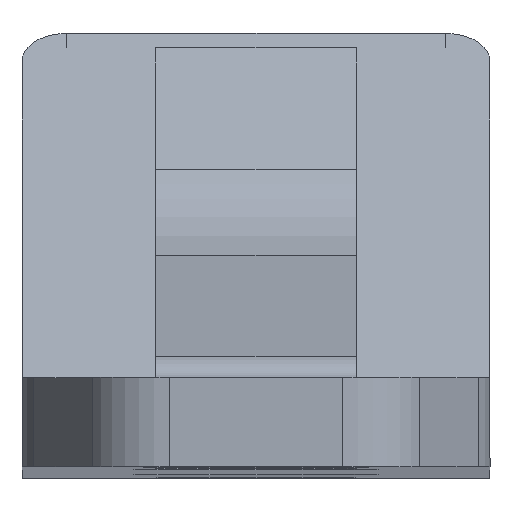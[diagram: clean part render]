
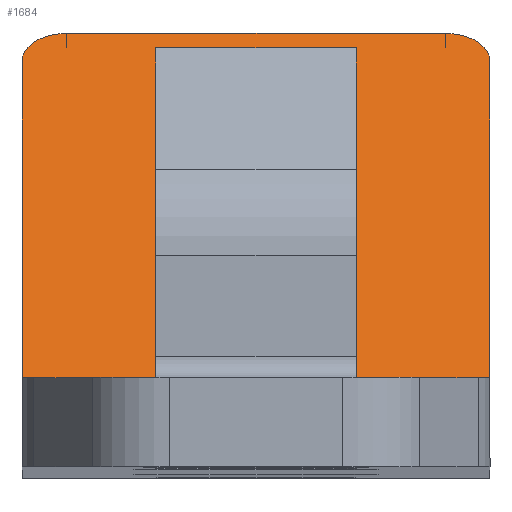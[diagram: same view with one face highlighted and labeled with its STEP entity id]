
A CAD part, top view. The second image highlights one B-rep face of the part: STEP entity #1684.
In plain terms, the highlighted planar face has unit normal (0, 0.788, 0.616).
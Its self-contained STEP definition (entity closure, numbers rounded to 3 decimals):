
#45 = ORIENTED_EDGE ( 'NONE', *, *, #766, .F. ) ;
#46 = ORIENTED_EDGE ( 'NONE', *, *, #764, .T. ) ;
#47 = ORIENTED_EDGE ( 'NONE', *, *, #807, .F. ) ;
#85 = ORIENTED_EDGE ( 'NONE', *, *, #786, .T. ) ;
#87 = ORIENTED_EDGE ( 'NONE', *, *, #758, .T. ) ;
#166 = ORIENTED_EDGE ( 'NONE', *, *, #809, .T. ) ;
#322 = EDGE_LOOP ( 'NONE', ( #45, #85, #46, #166, #87, #47 ) ) ;
#323 = VECTOR ( 'NONE', #1031, 1000. ) ;
#428 = VECTOR ( 'NONE', #1067, 1000. ) ;
#432 = LINE ( 'NONE', #1012, #428 ) ;
#470 = CIRCLE ( 'NONE', #1833, 1. ) ;
#472 = LINE ( 'NONE', #1026, #475 ) ;
#475 = VECTOR ( 'NONE', #1025, 1000. ) ;
#489 = LINE ( 'NONE', #1030, #323 ) ;
#511 = LINE ( 'NONE', #1143, #513 ) ;
#513 = VECTOR ( 'NONE', #1155, 1000. ) ;
#521 = CIRCLE ( 'NONE', #1877, 1. ) ;
#711 = FACE_OUTER_BOUND ( 'NONE', #322, .T. ) ;
#758 = EDGE_CURVE ( 'NONE', #930, #926, #432, .T. ) ;
#764 = EDGE_CURVE ( 'NONE', #911, #959, #472, .T. ) ;
#766 = EDGE_CURVE ( 'NONE', #928, #964, #489, .T. ) ;
#786 = EDGE_CURVE ( 'NONE', #928, #911, #470, .T. ) ;
#807 = EDGE_CURVE ( 'NONE', #964, #926, #511, .T. ) ;
#809 = EDGE_CURVE ( 'NONE', #959, #930, #521, .T. ) ;
#911 = VERTEX_POINT ( 'NONE', #1308 ) ;
#926 = VERTEX_POINT ( 'NONE', #1325 ) ;
#928 = VERTEX_POINT ( 'NONE', #1326 ) ;
#930 = VERTEX_POINT ( 'NONE', #1211 ) ;
#959 = VERTEX_POINT ( 'NONE', #1128 ) ;
#964 = VERTEX_POINT ( 'NONE', #1395 ) ;
#1012 = CARTESIAN_POINT ( 'NONE',  ( -5.25, 10.004, -159.694 ) ) ;
#1025 = DIRECTION ( 'NONE',  ( -1., 0., 0. ) ) ;
#1026 = CARTESIAN_POINT ( 'NONE',  ( 5.25, 10.004, -159.694 ) ) ;
#1030 = CARTESIAN_POINT ( 'NONE',  ( 5.25, 10.004, -159.694 ) ) ;
#1031 = DIRECTION ( 'NONE',  ( 0., -0.616, 0.788 ) ) ;
#1067 = DIRECTION ( 'NONE',  ( 0., -0.616, 0.788 ) ) ;
#1086 = DIRECTION ( 'NONE',  ( 0., 0.616, -0.788 ) ) ;
#1088 = CARTESIAN_POINT ( 'NONE',  ( 4.25, 9.388, -158.906 ) ) ;
#1091 = DIRECTION ( 'NONE',  ( 0., 0.788, 0.616 ) ) ;
#1128 = CARTESIAN_POINT ( 'NONE',  ( -4.25, 10.004, -159.694 ) ) ;
#1143 = CARTESIAN_POINT ( 'NONE',  ( 5.25, 2.106, -149.586 ) ) ;
#1155 = DIRECTION ( 'NONE',  ( -1., 0., 0. ) ) ;
#1168 = CARTESIAN_POINT ( 'NONE',  ( -4.25, 9.388, -158.906 ) ) ;
#1177 = DIRECTION ( 'NONE',  ( 0., 0.616, -0.788 ) ) ;
#1178 = DIRECTION ( 'NONE',  ( 0., 0.788, 0.616 ) ) ;
#1211 = CARTESIAN_POINT ( 'NONE',  ( -5.25, 9.388, -158.906 ) ) ;
#1308 = CARTESIAN_POINT ( 'NONE',  ( 4.25, 10.004, -159.694 ) ) ;
#1325 = CARTESIAN_POINT ( 'NONE',  ( -5.25, 2.106, -149.586 ) ) ;
#1326 = CARTESIAN_POINT ( 'NONE',  ( 5.25, 9.388, -158.906 ) ) ;
#1350 = DIRECTION ( 'NONE',  ( 0., -0.788, -0.616 ) ) ;
#1368 = CARTESIAN_POINT ( 'NONE',  ( 5.25, 10.004, -159.694 ) ) ;
#1369 = PLANE ( 'NONE',  #1847 ) ;
#1395 = CARTESIAN_POINT ( 'NONE',  ( 5.25, 2.106, -149.586 ) ) ;
#1451 = DIRECTION ( 'NONE',  ( 0., 0.616, -0.788 ) ) ;
#1684 = ADVANCED_FACE ( 'NONE', ( #711 ), #1369, .F. ) ;
#1833 = AXIS2_PLACEMENT_3D ( 'NONE', #1088, #1091, #1086 ) ;
#1847 = AXIS2_PLACEMENT_3D ( 'NONE', #1368, #1350, #1451 ) ;
#1877 = AXIS2_PLACEMENT_3D ( 'NONE', #1168, #1178, #1177 ) ;
